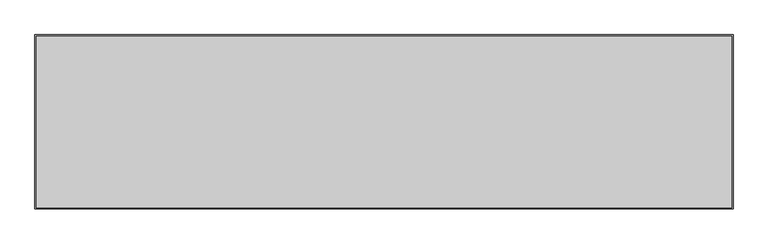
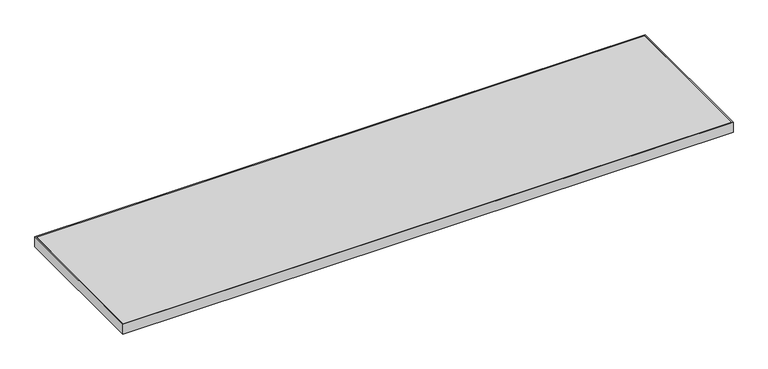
"""IFC4 building model written with IfcOpenShell, lengths in millimetres: furniture geometry, Steelcase - Universal Storage - Square Edge Top - Flush Front - Laminate : Common Top - 18D x 72W."""

from ifc_helpers import new_model, si_unit, frame, origin, place, context, project, spatial, polyline, outline, extrude, source, transform, mapped, element, save


def furniture_f2a33296(model_context):
    return source(origin(), model_context, "Body", "SweptSolid", [
        extrude(outline(polyline([(1825.7520001, -3.0479999), (1825.7520001, -454.1520001), (3.0479999, -454.1520001), (3.0479999, -3.0479999), (1825.7520001, -3.0479999)])), frame((0.0, 0.0, 680.72), z_axis=(0.0, 0.0, 1.0), x_axis=(1.0, 0.0, 0.0)), (0.0, 0.0, 1.0), 30.48),
        extrude(outline(polyline([(1828.8, 0.0), (1828.8, -457.2), (0.0, -457.2), (0.0, 0.0), (1828.8, 0.0)]), holes=[polyline([(1825.7520001, -3.0479999), (3.0479999, -3.0479999), (3.0479999, -454.1520001), (1825.7520001, -454.1520001), (1825.7520001, -3.0479999)])]), frame((0.0, 0.0, 680.72), z_axis=(0.0, 0.0, 1.0), x_axis=(1.0, 0.0, 0.0)), (0.0, 0.0, 1.0), 30.48),
    ])


if __name__ == "__main__":
    model = new_model("IFC4")
    model_context = context("Model", 3, world=origin())
    ifc_project = project(units=[si_unit("LENGTHUNIT", "METRE", prefix="MILLI")], contexts=[model_context])
    site = spatial("IfcSite", under=ifc_project)
    building = spatial("IfcBuilding", under=site)
    placement = place(None, origin())
    furniture_shape = furniture_f2a33296(model_context)
    element("IfcFurniture", 1, ObjectType="Steelcase - Universal Storage - Square Edge Top - Flush Front - Laminate : Common Top - 18D x 72W", at=placement, inside=building, context=model_context, shape_type="MappedRepresentation", body=[
        mapped(furniture_shape, transform((0.0, 0.0, 0.0), x_axis=(1.0, 0.0, 0.0), y_axis=(0.0, 1.0, 0.0), z_axis=(0.0, 0.0, 1.0))),
    ])
    save(model, "model.ifc")
